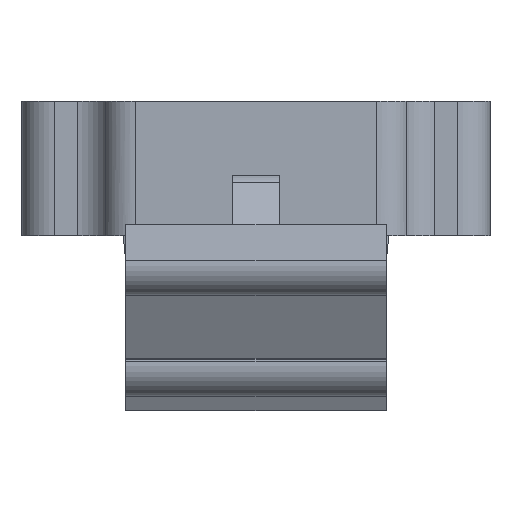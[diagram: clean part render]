
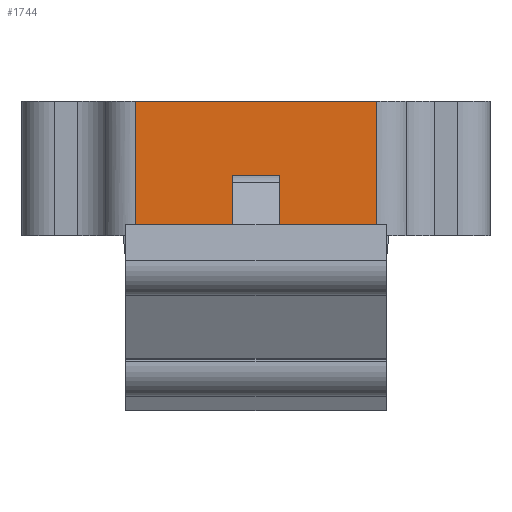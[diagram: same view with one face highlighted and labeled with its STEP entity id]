
A CAD part, front view. The second image highlights one B-rep face of the part: STEP entity #1744.
In plain terms, the highlighted planar face has unit normal (0, -1, 0).
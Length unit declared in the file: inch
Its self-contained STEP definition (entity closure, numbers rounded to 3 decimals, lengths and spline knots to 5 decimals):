
#13=DIRECTION('',(1.,0.,0.));
#14=VECTOR('',#13,0.27854);
#15=CARTESIAN_POINT('',(-0.13927,0.,0.));
#16=LINE('',#15,#14);
#121=DIRECTION('',(-1.,0.,0.));
#122=VECTOR('',#121,0.01073);
#123=CARTESIAN_POINT('',(0.15,0.,-0.185));
#124=LINE('',#123,#122);
#125=DIRECTION('',(-1.,0.,0.));
#126=VECTOR('',#125,0.3);
#127=CARTESIAN_POINT('',(0.15,0.,-0.18847));
#128=LINE('',#127,#126);
#129=DIRECTION('',(-1.,0.,0.));
#130=VECTOR('',#129,0.01073);
#131=CARTESIAN_POINT('',(-0.13927,0.,-0.185));
#132=LINE('',#131,#130);
#133=DIRECTION('',(0.,0.,1.));
#134=VECTOR('',#133,0.03);
#135=CARTESIAN_POINT('',(-0.13927,0.,-0.185));
#136=LINE('',#135,#134);
#137=DIRECTION('',(0.,0.,-1.));
#138=VECTOR('',#137,0.155);
#139=CARTESIAN_POINT('',(-0.13927,0.,0.));
#140=LINE('',#139,#138);
#141=DIRECTION('',(0.,0.,-1.));
#142=VECTOR('',#141,0.03023);
#143=CARTESIAN_POINT('',(-0.0275,0.,-0.12477));
#144=LINE('',#143,#142);
#145=DIRECTION('',(1.,0.,0.));
#146=VECTOR('',#145,0.055);
#147=CARTESIAN_POINT('',(-0.0275,0.,-0.155));
#148=LINE('',#147,#146);
#149=DIRECTION('',(0.,0.,1.));
#150=VECTOR('',#149,0.03023);
#151=CARTESIAN_POINT('',(0.0275,0.,-0.155));
#152=LINE('',#151,#150);
#153=DIRECTION('',(0.,0.,1.));
#154=VECTOR('',#153,0.03977);
#155=CARTESIAN_POINT('',(0.0275,0.,-0.12477));
#156=LINE('',#155,#154);
#157=DIRECTION('',(-1.,0.,0.));
#158=VECTOR('',#157,0.055);
#159=CARTESIAN_POINT('',(0.0275,0.,-0.085));
#160=LINE('',#159,#158);
#161=DIRECTION('',(0.,0.,1.));
#162=VECTOR('',#161,0.03977);
#163=CARTESIAN_POINT('',(-0.0275,0.,-0.12477));
#164=LINE('',#163,#162);
#165=DIRECTION('',(0.,0.,1.));
#166=VECTOR('',#165,0.03);
#167=CARTESIAN_POINT('',(0.13927,0.,-0.185));
#168=LINE('',#167,#166);
#286=DIRECTION('',(0.,0.,-1.));
#287=VECTOR('',#286,0.155);
#288=CARTESIAN_POINT('',(0.13927,0.,0.));
#289=LINE('',#288,#287);
#450=DIRECTION('',(0.,0.,1.));
#451=VECTOR('',#450,0.00347);
#452=CARTESIAN_POINT('',(-0.15,0.,-0.18847));
#453=LINE('',#452,#451);
#838=DIRECTION('',(0.,0.,1.));
#839=VECTOR('',#838,0.00347);
#840=CARTESIAN_POINT('',(0.15,0.,-0.18847));
#841=LINE('',#840,#839);
#1262=CARTESIAN_POINT('',(-0.13927,0.,0.));
#1263=CARTESIAN_POINT('',(0.13927,0.,0.));
#1264=VERTEX_POINT('',#1262);
#1265=VERTEX_POINT('',#1263);
#1432=CARTESIAN_POINT('',(0.15,0.,-0.18847));
#1433=VERTEX_POINT('',#1432);
#1516=CARTESIAN_POINT('',(-0.15,0.,-0.18847));
#1517=VERTEX_POINT('',#1516);
#1574=CARTESIAN_POINT('',(-0.0275,0.,-0.155));
#1575=CARTESIAN_POINT('',(0.0275,0.,-0.155));
#1576=VERTEX_POINT('',#1574);
#1577=VERTEX_POINT('',#1575);
#1594=CARTESIAN_POINT('',(0.0275,0.,-0.085));
#1595=CARTESIAN_POINT('',(-0.0275,0.,-0.085));
#1596=VERTEX_POINT('',#1594);
#1597=VERTEX_POINT('',#1595);
#1604=CARTESIAN_POINT('',(-0.0275,0.,-0.12477));
#1605=VERTEX_POINT('',#1604);
#1608=CARTESIAN_POINT('',(0.0275,0.,-0.12477));
#1609=VERTEX_POINT('',#1608);
#1614=CARTESIAN_POINT('',(-0.13927,0.,-0.155));
#1615=VERTEX_POINT('',#1614);
#1616=CARTESIAN_POINT('',(0.13927,0.,-0.155));
#1617=VERTEX_POINT('',#1616);
#1618=CARTESIAN_POINT('',(0.15,0.,-0.185));
#1619=VERTEX_POINT('',#1618);
#1620=CARTESIAN_POINT('',(-0.15,0.,-0.185));
#1621=VERTEX_POINT('',#1620);
#1640=CARTESIAN_POINT('',(0.13927,0.,-0.185));
#1641=VERTEX_POINT('',#1640);
#1642=CARTESIAN_POINT('',(-0.13927,0.,-0.185));
#1643=VERTEX_POINT('',#1642);
#1704=CARTESIAN_POINT('',(-0.13927,0.,0.));
#1705=DIRECTION('',(0.,-1.,0.));
#1706=DIRECTION('',(1.,0.,0.));
#1707=AXIS2_PLACEMENT_3D('',#1704,#1705,#1706);
#1708=PLANE('',#1707);
#1710=ORIENTED_EDGE('',*,*,#1709,.F.);
#1712=ORIENTED_EDGE('',*,*,#1711,.F.);
#1714=ORIENTED_EDGE('',*,*,#1713,.F.);
#1716=ORIENTED_EDGE('',*,*,#1715,.T.);
#1718=ORIENTED_EDGE('',*,*,#1717,.T.);
#1720=ORIENTED_EDGE('',*,*,#1719,.F.);
#1722=ORIENTED_EDGE('',*,*,#1721,.T.);
#1724=ORIENTED_EDGE('',*,*,#1723,.F.);
#1725=ORIENTED_EDGE('',*,*,#1653,.T.);
#1727=ORIENTED_EDGE('',*,*,#1726,.T.);
#1728=EDGE_LOOP('',(#1710,#1712,#1714,#1716,#1718,#1720,#1722,#1724,#1725,
#1727));
#1729=FACE_OUTER_BOUND('',#1728,.F.);
#1731=ORIENTED_EDGE('',*,*,#1730,.T.);
#1733=ORIENTED_EDGE('',*,*,#1732,.T.);
#1735=ORIENTED_EDGE('',*,*,#1734,.T.);
#1737=ORIENTED_EDGE('',*,*,#1736,.T.);
#1739=ORIENTED_EDGE('',*,*,#1738,.T.);
#1741=ORIENTED_EDGE('',*,*,#1740,.F.);
#1742=EDGE_LOOP('',(#1731,#1733,#1735,#1737,#1739,#1741));
#1743=FACE_BOUND('',#1742,.F.);
#1653=EDGE_CURVE('',#1264,#1265,#16,.T.);
#1709=EDGE_CURVE('',#1641,#1617,#168,.T.);
#1711=EDGE_CURVE('',#1619,#1641,#124,.T.);
#1713=EDGE_CURVE('',#1433,#1619,#841,.T.);
#1715=EDGE_CURVE('',#1433,#1517,#128,.T.);
#1717=EDGE_CURVE('',#1517,#1621,#453,.T.);
#1719=EDGE_CURVE('',#1643,#1621,#132,.T.);
#1721=EDGE_CURVE('',#1643,#1615,#136,.T.);
#1723=EDGE_CURVE('',#1264,#1615,#140,.T.);
#1726=EDGE_CURVE('',#1265,#1617,#289,.T.);
#1730=EDGE_CURVE('',#1605,#1576,#144,.T.);
#1732=EDGE_CURVE('',#1576,#1577,#148,.T.);
#1734=EDGE_CURVE('',#1577,#1609,#152,.T.);
#1736=EDGE_CURVE('',#1609,#1596,#156,.T.);
#1738=EDGE_CURVE('',#1596,#1597,#160,.T.);
#1740=EDGE_CURVE('',#1605,#1597,#164,.T.);
#1744=ADVANCED_FACE('',(#1729,#1743),#1708,.T.);
